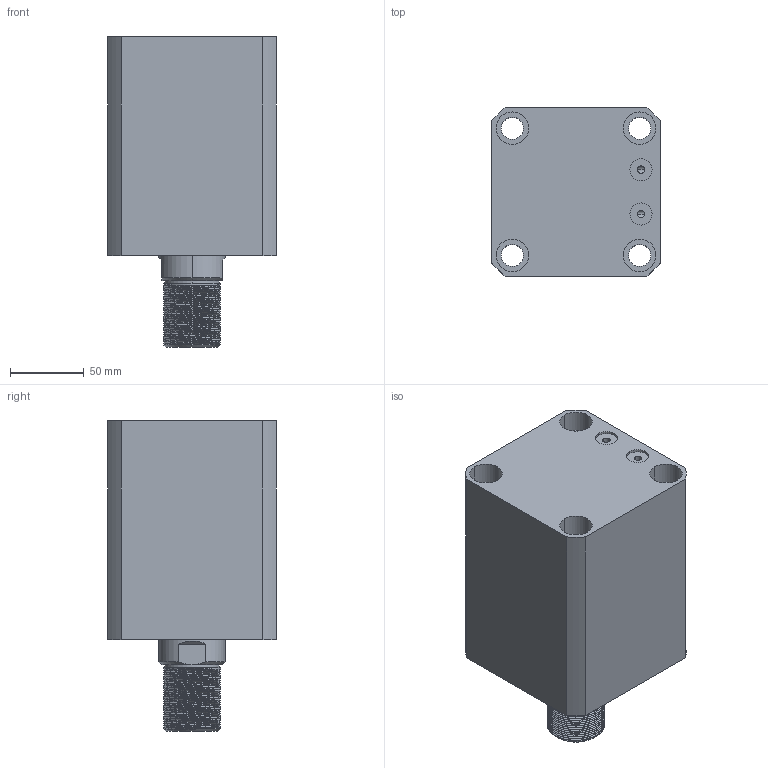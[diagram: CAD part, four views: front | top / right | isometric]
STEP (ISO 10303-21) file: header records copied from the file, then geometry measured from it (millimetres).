
FILE_DESCRIPTION (( 'STEP AP214' ), '1' );
FILE_NAME ('chtb-sdmb80x70w_asm.STEP', '2018-05-26T02:15:12', ( 'Windows' ), ( 'Microsoft' ), 'SwSTEP 2.0', 'SolidWorks 2015', '' );
FILE_SCHEMA (( 'AUTOMOTIVE_DESIGN' ));
Length unit declared in the file: millimetre
Products named in the file (4): CHTB-SDMB80X70NBT; CHTB-SD80X70WHSG; CHTB-SD80QG; chtb-sdmb80x70w_asm
Assembly tree (3 placements, depth 2):
  chtb-sdmb80x70w_asm
    CHTB-SD80QG
    CHTB-SD80X70WHSG
    CHTB-SDMB80X70NBT
Bounding box: 114 x 114 x 210 mm (x, y, z)
Volume: 1588731.8 mm3; surface area: 228581.5 mm2
Topology: 3 solids, 3 shells, 251 faces, 695 edges, 466 vertices
Faces by surface type: cylinder 163, plane 38, torus 18, bspline 16, cone 16
Entity records: 20297 total; most frequent: CARTESIAN_POINT 14321, ORIENTED_EDGE 1382, DIRECTION 1068, EDGE_CURVE 691, VERTEX_POINT 466, AXIS2_PLACEMENT_3D 433, EDGE_LOOP 289, ADVANCED_FACE 251
